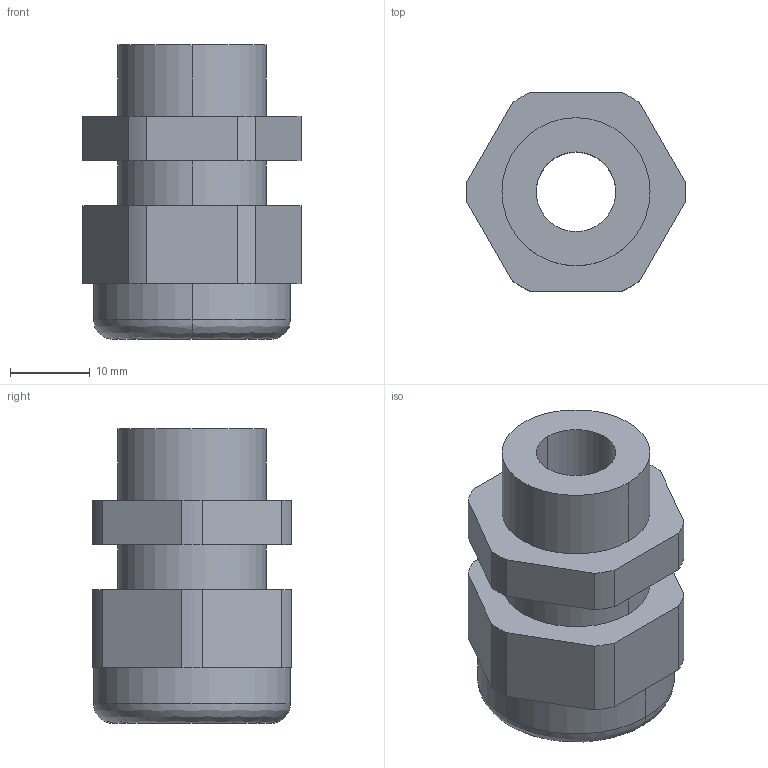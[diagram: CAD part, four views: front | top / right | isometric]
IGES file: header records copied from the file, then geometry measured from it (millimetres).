
Start section:  PTC IGES file: U:\ds\zip\sf\m20.igs
Global section: file name: U:\ds\zip\sf\m20.igs; native system: Pro/ENGINEER by Parametric Technology Corporation; preprocessor: 2003450; author: ds; organization: Unknown; date: 040803.081944; units: millimetre
Bounding box: 27.49 x 25 x 37 mm (x, y, z)
Surface area: 5215.7 mm2 (no closed solid volume)
Topology: 0 solids, 0 shells, 40 faces, 200 edges, 200 vertices
Faces by surface type: revolution 22, bspline 18
